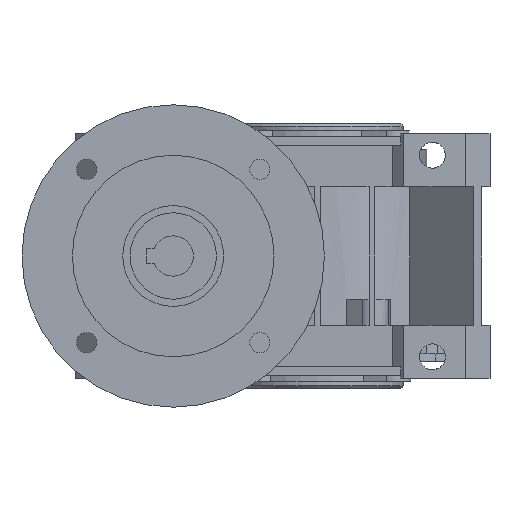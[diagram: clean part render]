
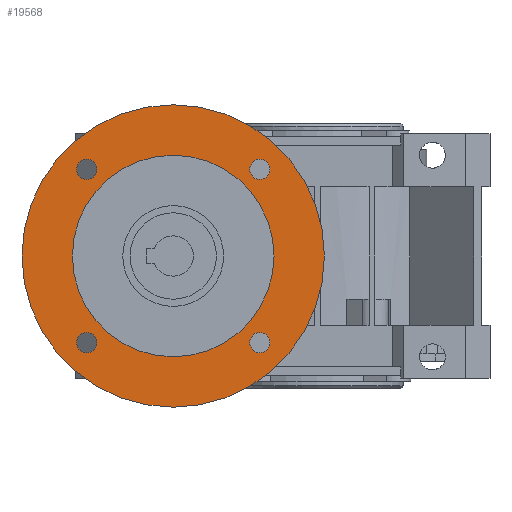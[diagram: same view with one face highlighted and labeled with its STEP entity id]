
A CAD part, left-side view. The second image highlights one B-rep face of the part: STEP entity #19568.
In plain terms, the highlighted planar face has unit normal (-1, 0, 0).
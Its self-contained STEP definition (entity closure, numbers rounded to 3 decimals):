
#608 = EDGE_CURVE ( 'NONE', #8719, #8719, #24771, .T. ) ;
#864 = EDGE_CURVE ( 'NONE', #13650, #13650, #14588, .T. ) ;
#947 = FACE_BOUND ( 'NONE', #16880, .T. ) ;
#1040 = EDGE_LOOP ( 'NONE', ( #8149 ) ) ;
#1221 = AXIS2_PLACEMENT_3D ( 'NONE', #8747, #14998, #12978 ) ;
#1498 = ORIENTED_EDGE ( 'NONE', *, *, #864, .F. ) ;
#2602 = DIRECTION ( 'NONE',  ( 1., 0., 0. ) ) ;
#3170 = CARTESIAN_POINT ( 'NONE',  ( -69., 23.448, -30.052 ) ) ;
#3520 = AXIS2_PLACEMENT_3D ( 'NONE', #15202, #2602, #17305 ) ;
#5410 = AXIS2_PLACEMENT_3D ( 'NONE', #23263, #10696, #25385 ) ;
#5858 = FACE_OUTER_BOUND ( 'NONE', #22312, .T. ) ;
#6073 = CARTESIAN_POINT ( 'NONE',  ( -69., -2.5, 0. ) ) ;
#6577 = EDGE_CURVE ( 'NONE', #22164, #22164, #10237, .T. ) ;
#6684 = CARTESIAN_POINT ( 'NONE',  ( -69., 19.948, 30.052 ) ) ;
#6954 = AXIS2_PLACEMENT_3D ( 'NONE', #20157, #7576, #22258 ) ;
#7576 = DIRECTION ( 'NONE',  ( -1., 0., 0. ) ) ;
#8016 = VERTEX_POINT ( 'NONE', #21240 ) ;
#8149 = ORIENTED_EDGE ( 'NONE', *, *, #27066, .F. ) ;
#8719 = VERTEX_POINT ( 'NONE', #26217 ) ;
#8747 = CARTESIAN_POINT ( 'NONE',  ( -69., 50., 0. ) ) ;
#8805 = DIRECTION ( 'NONE',  ( 0., 1., 0. ) ) ;
#9626 = CIRCLE ( 'NONE', #5410, 3.5 ) ;
#10237 = CIRCLE ( 'NONE', #3520, 52.5 ) ;
#10696 = DIRECTION ( 'NONE',  ( -1., 0., 0. ) ) ;
#10860 = PLANE ( 'NONE',  #1221 ) ;
#11477 = FACE_BOUND ( 'NONE', #18255, .T. ) ;
#11998 = VERTEX_POINT ( 'NONE', #16848 ) ;
#12140 = FACE_BOUND ( 'NONE', #1040, .T. ) ;
#12276 = ORIENTED_EDGE ( 'NONE', *, *, #608, .F. ) ;
#12370 = CARTESIAN_POINT ( 'NONE',  ( -69., 50., 0. ) ) ;
#12461 = DIRECTION ( 'NONE',  ( -1., 0., 0. ) ) ;
#12652 = VERTEX_POINT ( 'NONE', #25202 ) ;
#12978 = DIRECTION ( 'NONE',  ( 0., -1., 0. ) ) ;
#13176 = EDGE_LOOP ( 'NONE', ( #24698 ) ) ;
#13650 = VERTEX_POINT ( 'NONE', #3170 ) ;
#14082 = EDGE_CURVE ( 'NONE', #12652, #12652, #21567, .T. ) ;
#14116 = ORIENTED_EDGE ( 'NONE', *, *, #6577, .F. ) ;
#14482 = DIRECTION ( 'NONE',  ( 0., 0., 1. ) ) ;
#14588 = CIRCLE ( 'NONE', #17335, 3.5 ) ;
#14998 = DIRECTION ( 'NONE',  ( 1., 0., 0. ) ) ;
#15202 = CARTESIAN_POINT ( 'NONE',  ( -69., 50., 0. ) ) ;
#16692 = EDGE_CURVE ( 'NONE', #11998, #11998, #9626, .T. ) ;
#16795 = ORIENTED_EDGE ( 'NONE', *, *, #14082, .F. ) ;
#16848 = CARTESIAN_POINT ( 'NONE',  ( -69., 83.552, -30.052 ) ) ;
#16880 = EDGE_LOOP ( 'NONE', ( #12276 ) ) ;
#17076 = FACE_BOUND ( 'NONE', #13176, .T. ) ;
#17305 = DIRECTION ( 'NONE',  ( 0., -1., 0. ) ) ;
#17335 = AXIS2_PLACEMENT_3D ( 'NONE', #19794, #21897, #21331 ) ;
#18255 = EDGE_LOOP ( 'NONE', ( #16795 ) ) ;
#19063 = EDGE_LOOP ( 'NONE', ( #1498 ) ) ;
#19269 = AXIS2_PLACEMENT_3D ( 'NONE', #12370, #12461, #14482 ) ;
#19568 = ADVANCED_FACE ( 'NONE', ( #947, #17076, #22637, #12140, #11477, #5858 ), #10860, .F. ) ;
#19794 = CARTESIAN_POINT ( 'NONE',  ( -69., 19.948, -30.052 ) ) ;
#20157 = CARTESIAN_POINT ( 'NONE',  ( -69., 80.052, 30.052 ) ) ;
#21240 = CARTESIAN_POINT ( 'NONE',  ( -69., 23.448, 30.052 ) ) ;
#21331 = DIRECTION ( 'NONE',  ( 0., 1., 0. ) ) ;
#21383 = DIRECTION ( 'NONE',  ( -1., 0., 0. ) ) ;
#21567 = CIRCLE ( 'NONE', #6954, 3.5 ) ;
#21897 = DIRECTION ( 'NONE',  ( -1., 0., 0. ) ) ;
#22164 = VERTEX_POINT ( 'NONE', #6073 ) ;
#22258 = DIRECTION ( 'NONE',  ( 0., 1., 0. ) ) ;
#22312 = EDGE_LOOP ( 'NONE', ( #14116 ) ) ;
#22637 = FACE_BOUND ( 'NONE', #19063, .T. ) ;
#23263 = CARTESIAN_POINT ( 'NONE',  ( -69., 80.052, -30.052 ) ) ;
#24131 = CIRCLE ( 'NONE', #26868, 3.5 ) ;
#24698 = ORIENTED_EDGE ( 'NONE', *, *, #16692, .F. ) ;
#24771 = CIRCLE ( 'NONE', #19269, 35. ) ;
#25202 = CARTESIAN_POINT ( 'NONE',  ( -69., 83.552, 30.052 ) ) ;
#25385 = DIRECTION ( 'NONE',  ( 0., 1., 0. ) ) ;
#26217 = CARTESIAN_POINT ( 'NONE',  ( -69., 50., 35. ) ) ;
#26868 = AXIS2_PLACEMENT_3D ( 'NONE', #6684, #21383, #8805 ) ;
#27066 = EDGE_CURVE ( 'NONE', #8016, #8016, #24131, .T. ) ;
